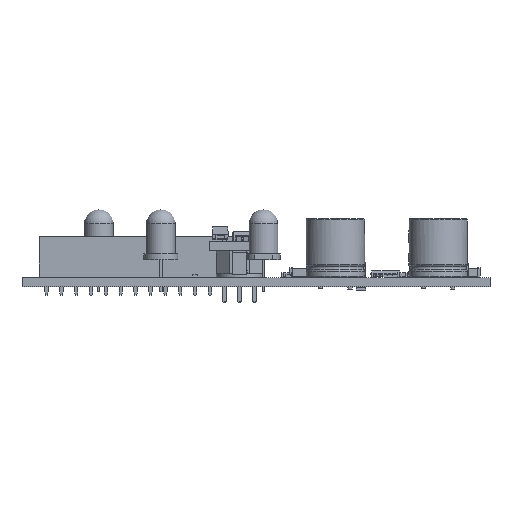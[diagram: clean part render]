
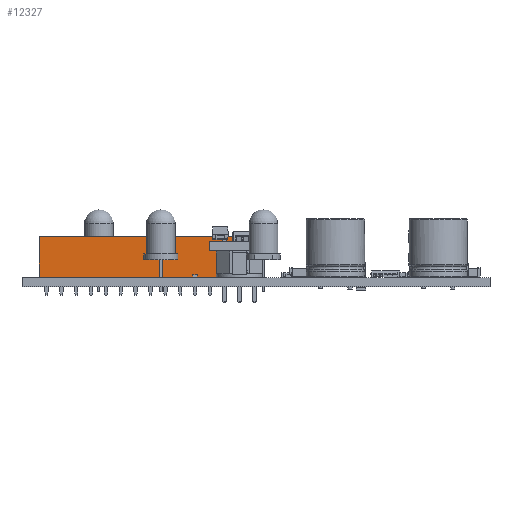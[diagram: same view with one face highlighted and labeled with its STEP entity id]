
A CAD part, left-side view. The second image highlights one B-rep face of the part: STEP entity #12327.
In plain terms, the highlighted planar face has unit normal (-1, 0, 0).
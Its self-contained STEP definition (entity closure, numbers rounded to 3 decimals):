
#10604 = VERTEX_POINT('',#10605);
#10605 = CARTESIAN_POINT('',(-1.27,-36.83,0.));
#10613 = EDGE_CURVE('',#10604,#10614,#10616,.T.);
#10614 = VERTEX_POINT('',#10615);
#10615 = CARTESIAN_POINT('',(-1.27,-36.83,7.));
#10616 = LINE('',#10617,#10618);
#10617 = CARTESIAN_POINT('',(-1.27,-36.83,0.));
#10618 = VECTOR('',#10619,1.);
#10619 = DIRECTION('',(0.,0.,1.));
#10676 = VERTEX_POINT('',#10677);
#10677 = CARTESIAN_POINT('',(-1.27,1.27,7.));
#10683 = EDGE_CURVE('',#10684,#10676,#10686,.T.);
#10684 = VERTEX_POINT('',#10685);
#10685 = CARTESIAN_POINT('',(-1.27,1.27,0.));
#10686 = LINE('',#10687,#10688);
#10687 = CARTESIAN_POINT('',(-1.27,1.27,0.));
#10688 = VECTOR('',#10689,1.);
#10689 = DIRECTION('',(0.,0.,1.));
#10748 = EDGE_CURVE('',#10676,#10614,#10749,.T.);
#10749 = LINE('',#10750,#10751);
#10750 = CARTESIAN_POINT('',(-1.27,1.27,7.));
#10751 = VECTOR('',#10752,1.);
#10752 = DIRECTION('',(0.,-1.,0.));
#11280 = EDGE_CURVE('',#10684,#10604,#11281,.T.);
#11281 = LINE('',#11282,#11283);
#11282 = CARTESIAN_POINT('',(-1.27,1.27,0.));
#11283 = VECTOR('',#11284,1.);
#11284 = DIRECTION('',(0.,-1.,0.));
#12327 = ADVANCED_FACE('',(#12328),#12334,.F.);
#12328 = FACE_BOUND('',#12329,.F.);
#12329 = EDGE_LOOP('',(#12330,#12331,#12332,#12333));
#12330 = ORIENTED_EDGE('',*,*,#10683,.T.);
#12331 = ORIENTED_EDGE('',*,*,#10748,.T.);
#12332 = ORIENTED_EDGE('',*,*,#10613,.F.);
#12333 = ORIENTED_EDGE('',*,*,#11280,.F.);
#12334 = PLANE('',#12335);
#12335 = AXIS2_PLACEMENT_3D('',#12336,#12337,#12338);
#12336 = CARTESIAN_POINT('',(-1.27,1.27,0.));
#12337 = DIRECTION('',(1.,0.,0.));
#12338 = DIRECTION('',(0.,-1.,0.));
